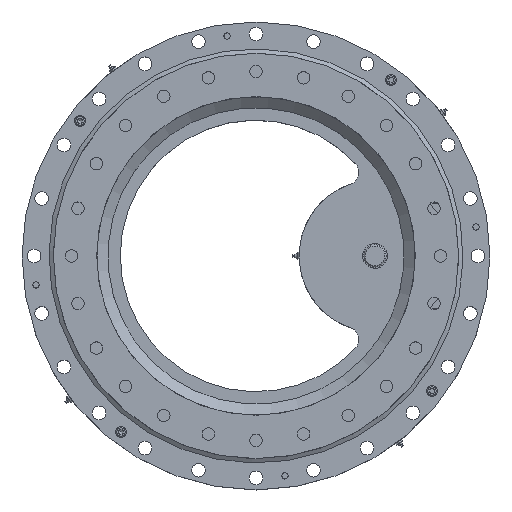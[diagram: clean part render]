
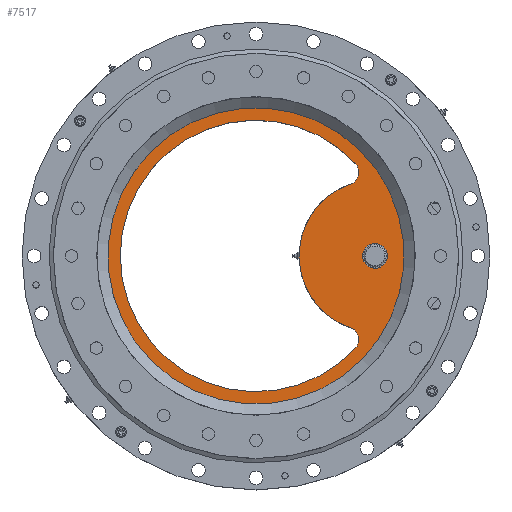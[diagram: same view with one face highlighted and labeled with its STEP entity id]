
A CAD part, top view. The second image highlights one B-rep face of the part: STEP entity #7517.
In plain terms, the highlighted planar face has unit normal (0, 0, 1).
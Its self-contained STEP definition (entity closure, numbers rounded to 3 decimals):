
#52=PLANE('',#8081);
#293=FACE_BOUND('',#916,.T.);
#294=FACE_BOUND('',#917,.T.);
#485=FACE_OUTER_BOUND('',#915,.T.);
#915=EDGE_LOOP('',(#5383));
#916=EDGE_LOOP('',(#5384));
#917=EDGE_LOOP('',(#5385,#5386,#5387,#5388));
#2515=CIRCLE('',#7951,219.);
#2519=CIRCLE('',#7956,122.5);
#2581=CIRCLE('',#8049,20.);
#2606=CIRCLE('',#8080,20.);
#2607=CIRCLE('',#8082,241.);
#2608=CIRCLE('',#8083,18.);
#3115=VERTEX_POINT('',#11387);
#3116=VERTEX_POINT('',#11388);
#3123=VERTEX_POINT('',#11403);
#3124=VERTEX_POINT('',#11405);
#3209=VERTEX_POINT('',#11822);
#3210=VERTEX_POINT('',#11824);
#3964=EDGE_CURVE('',#3115,#3116,#2515,.T.);
#3972=EDGE_CURVE('',#3123,#3124,#2519,.T.);
#4069=EDGE_CURVE('',#3115,#3124,#2581,.T.);
#4094=EDGE_CURVE('',#3123,#3116,#2606,.T.);
#4095=EDGE_CURVE('',#3209,#3209,#2607,.T.);
#4096=EDGE_CURVE('',#3210,#3210,#2608,.T.);
#5383=ORIENTED_EDGE('',*,*,#4095,.T.);
#5384=ORIENTED_EDGE('',*,*,#4096,.T.);
#5385=ORIENTED_EDGE('',*,*,#3964,.F.);
#5386=ORIENTED_EDGE('',*,*,#4069,.T.);
#5387=ORIENTED_EDGE('',*,*,#3972,.F.);
#5388=ORIENTED_EDGE('',*,*,#4094,.T.);
#7517=ADVANCED_FACE('',(#485,#293,#294),#52,.T.);
#7951=AXIS2_PLACEMENT_3D('',#11389,#8908,#8909);
#7956=AXIS2_PLACEMENT_3D('',#11406,#8922,#8923);
#8049=AXIS2_PLACEMENT_3D('',#11771,#9141,#9142);
#8080=AXIS2_PLACEMENT_3D('',#11820,#9203,#9204);
#8081=AXIS2_PLACEMENT_3D('',#11821,#9205,#9206);
#8082=AXIS2_PLACEMENT_3D('',#11823,#9207,#9208);
#8083=AXIS2_PLACEMENT_3D('',#11825,#9209,#9210);
#8908=DIRECTION('center_axis',(0.,0.,1.));
#8909=DIRECTION('ref_axis',(1.,0.,0.));
#8922=DIRECTION('center_axis',(0.,0.,-1.));
#8923=DIRECTION('ref_axis',(1.,0.,0.));
#9141=DIRECTION('center_axis',(0.,0.,-1.));
#9142=DIRECTION('ref_axis',(1.,0.,0.));
#9203=DIRECTION('center_axis',(0.,0.,-1.));
#9204=DIRECTION('ref_axis',(1.,0.,0.));
#9205=DIRECTION('center_axis',(0.,0.,1.));
#9206=DIRECTION('ref_axis',(1.,0.,0.));
#9207=DIRECTION('center_axis',(0.,0.,1.));
#9208=DIRECTION('ref_axis',(1.,0.,0.));
#9209=DIRECTION('center_axis',(0.,0.,-1.));
#9210=DIRECTION('ref_axis',(-1.,0.,0.));
#11387=CARTESIAN_POINT('',(94.542,186.016,647.5));
#11388=CARTESIAN_POINT('',(94.542,-111.02,647.5));
#11389=CARTESIAN_POINT('Origin',(-66.403,37.498,647.5));
#11403=CARTESIAN_POINT('',(86.266,-78.516,647.5));
#11405=CARTESIAN_POINT('',(86.266,153.512,647.5));
#11406=CARTESIAN_POINT('Origin',(125.597,37.498,647.5));
#11771=CARTESIAN_POINT('Origin',(79.844,172.453,647.5));
#11820=CARTESIAN_POINT('Origin',(79.844,-97.457,647.5));
#11821=CARTESIAN_POINT('Origin',(-66.403,37.498,647.5));
#11822=CARTESIAN_POINT('',(-307.403,37.498,647.5));
#11823=CARTESIAN_POINT('Origin',(-66.403,37.498,647.5));
#11824=CARTESIAN_POINT('',(143.597,37.498,647.5));
#11825=CARTESIAN_POINT('Origin',(125.597,37.498,647.5));
